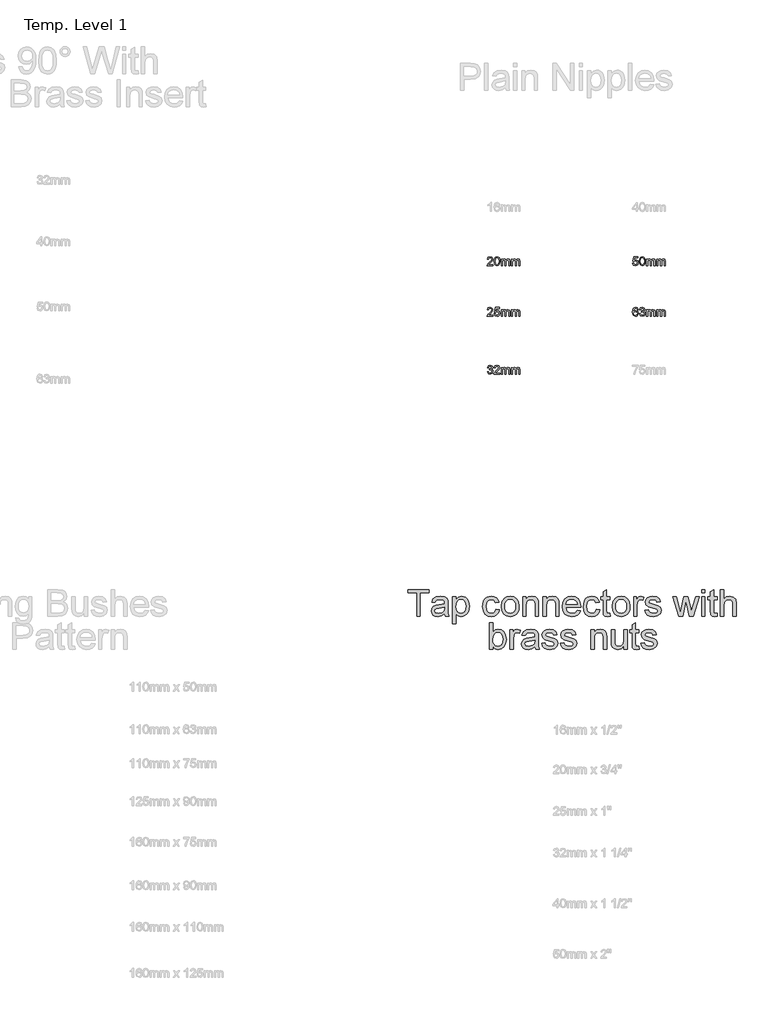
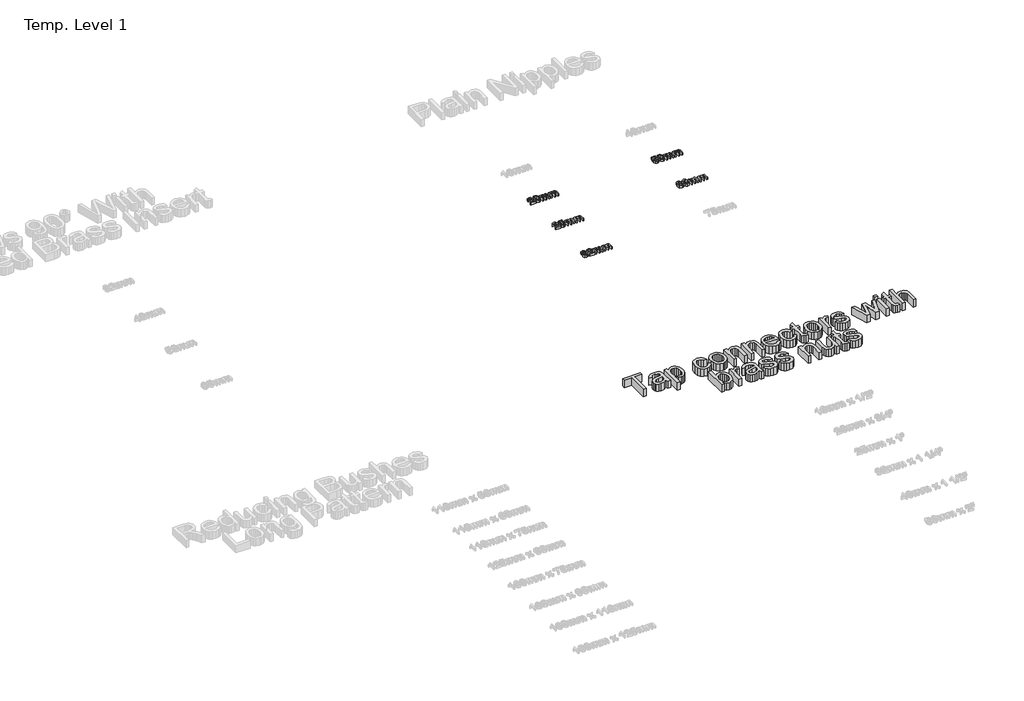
# One storey, part 51 of 62: 6 proxies.
"""IFC4 building model written with IfcOpenShell, lengths in millimetres."""

from ifc_helpers import new_model, si_unit, origin, origin_with_axes, place, context, project, spatial, polyline, outline, extrude, element, save

model = new_model("IFC4")

# Units and contexts
model_context = context("Model", 3, world=origin())
ifc_project = project(units=[si_unit("LENGTHUNIT", "METRE", prefix="MILLI")], contexts=[model_context])

# Site, building, storey
site = spatial("IfcSite", under=ifc_project)
building = spatial("IfcBuilding", under=site)
storey = spatial("IfcBuildingStorey", under=building, Name="Temp. Level 1", Elevation=0.0)

# Proxies
placement = place(None, origin())
element("IfcBuildingElementProxy", 1, Name="150mm Arial", ObjectType="150mm Arial", at=placement, inside=storey, context=model_context, shape_type="SweptSolid", body=[
    extrude(outline(polyline([(26596.1176365, -3979.0446709), (26596.1176365, -3849.8139016), (26547.6560981, -3849.8139016), (26547.6560981, -3831.3523632), (26663.0407135, -3831.3523632), (26663.0407135, -3849.8139016), (26614.579175, -3849.8139016), (26614.579175, -3979.0446709), (26596.1176365, -3979.0446709)])), origin_with_axes(), (0.0, 0.0, 1.0), 50.0),
    extrude(outline(polyline([(26750.7330212, -3965.198517), (26732.8303769, -3977.7105362), (26713.0527327, -3981.3523632), (26697.6245476, -3979.1618584), (26686.2438385, -3972.5903439), (26679.2261101, -3962.6113776), (26676.8868673, -3950.198517), (26680.4205212, -3935.5951516), (26689.7053769, -3924.9941901), (26702.6320596, -3918.9364978), (26718.6056173, -3916.1600555), (26750.6248481, -3909.8139016), (26750.7330212, -3905.7033247), (26749.4619875, -3897.464142), (26745.6488865, -3892.073517), (26737.1212423, -3888.0711132), (26725.2402327, -3886.7369786), (26706.5623481, -3890.2886612), (26697.6560981, -3902.8908247), (26679.1945596, -3900.5831324), (26687.1813385, -3882.5542862), (26703.2630692, -3871.9893824), (26727.6200404, -3868.2754401), (26749.9938385, -3871.5566901), (26762.6320596, -3879.7958728), (26768.2931173, -3892.3259209), (26769.1945596, -3908.479767), (26769.1945596, -3931.448517), (26770.1320596, -3963.5218343), (26773.8099442, -3979.0446709), (26755.3484058, -3979.0446709), (26750.7330212, -3965.198517)]), holes=[polyline([(26750.7330212, -3928.2754401), (26720.9493673, -3933.9364978), (26705.0659538, -3936.9292862), (26697.8724442, -3941.7970747), (26695.3484058, -3948.9004401), (26700.8472038, -3958.8884209), (26716.9830212, -3962.8908247), (26735.6609058, -3958.4737574), (26747.704175, -3947.7826516), (26750.6248481, -3933.5038055), (26750.7330212, -3928.2754401)])]), origin_with_axes(), (0.0, 0.0, 1.0), 50.0),
    extrude(outline(polyline([(26794.579175, -4020.5831324), (26794.579175, -3870.5831324), (26813.0407135, -3870.5831324), (26813.0407135, -3888.6840939), (26825.8051365, -3873.3776036), (26843.0407135, -3868.2754401), (26855.5256894, -3870.0602959), (26866.4421558, -3875.4148632), (26875.3303769, -3884.0146228), (26881.7306173, -3895.5350555), (26886.8868673, -3923.9845747), (26885.431038, -3939.7733367), (26881.06355, -3953.8944305), (26873.9241269, -3965.6312093), (26864.1524923, -3974.2670266), (26852.7717832, -3979.581029), (26840.8051365, -3981.3523632), (26824.7414346, -3976.6107766), (26813.0407135, -3964.6215939), (26813.0407135, -4020.5831324), (26794.579175, -4020.5831324)]), holes=[polyline([(26813.0407135, -3925.6792862), (26815.0374082, -3942.229767), (26821.0274923, -3953.8042862), (26829.8661341, -3960.6191901), (26840.4085019, -3962.8908247), (26851.1221438, -3960.5380603), (26860.1861462, -3953.479767), (26866.3655332, -3941.4815699), (26868.4253288, -3924.3090939), (26866.4151125, -3907.8487574), (26860.3844635, -3896.1119786), (26851.5593433, -3889.0807286), (26841.1657135, -3886.7369786), (26830.7315188, -3889.2294665), (26821.5683577, -3896.7069305), (26815.1726245, -3908.9349954), (26813.0407135, -3925.6792862)])]), origin_with_axes(), (0.0, 0.0, 1.0), 50.0),
    extrude(outline(polyline([(27034.579175, -3939.8139016), (27053.0407135, -3942.1215939), (27047.8934779, -3958.5413656), (27038.2210019, -3970.9497189), (27024.9337423, -3978.7517021), (27008.9421558, -3981.3523632), (26989.3042351, -3977.7240579), (26973.9481654, -3966.839142), (26964.0368072, -3949.17538), (26960.7330212, -3925.2105362), (26966.37605, -3894.5434689), (26973.4974442, -3883.0455723), (26983.5755692, -3874.8379401), (26995.6323601, -3869.9160651), (27008.6897519, -3868.2754401), (27024.2892111, -3870.5290459), (27036.7606654, -3877.2898632), (27045.7074803, -3888.1973151), (27050.7330212, -3902.8908247), (27032.2714827, -3905.198517), (27023.7077808, -3891.370392), (27008.8339827, -3886.7369786), (26996.9033938, -3889.0176276), (26987.4337423, -3895.8595747), (26981.2543553, -3907.6324112), (26979.1945596, -3924.7057286), (26981.2092832, -3942.0089137), (26987.2534538, -3953.8223151), (26996.5518313, -3960.6236973), (27008.329175, -3962.8908247), (27017.8889707, -3961.4755603), (27025.7270115, -3957.229767), (27031.4286341, -3950.0452718), (27034.579175, -3939.8139016)])), origin_with_axes(), (0.0, 0.0, 1.0), 50.0),
    extrude(outline(polyline([(27064.579175, -3924.8139016), (27068.5725644, -3898.6630603), (27080.5527327, -3880.2826516), (27095.3544154, -3871.277243), (27113.0767712, -3868.2754401), (27132.4713024, -3871.9307887), (27147.9625885, -3882.8968343), (27158.1173361, -3900.3081925), (27161.5022519, -3923.2994786), (27160.0058577, -3941.9503199), (27155.516675, -3956.1480362), (27148.165413, -3966.7805483), (27138.0827808, -3974.7357766), (27126.1071197, -3979.6982165), (27113.0767712, -3981.3523632), (27093.4478649, -3977.7105362), (27077.9746077, -3966.7850555), (27067.9280332, -3949.0086132), (27064.579175, -3924.8139016)]), holes=[polyline([(27083.0407135, -3924.7778439), (27085.1771317, -3941.4860771), (27091.5863865, -3953.3896228), (27101.2318192, -3960.5155242), (27113.0767712, -3962.8908247), (27124.8676365, -3960.5020026), (27134.4950404, -3953.3355362), (27140.9042952, -3941.2742382), (27143.0407135, -3924.2009209), (27140.8907736, -3907.9794665), (27134.4409538, -3896.2381805), (27124.8000284, -3889.112279), (27113.0767712, -3886.7369786), (27101.2318192, -3889.1032646), (27091.5863865, -3896.2021228), (27085.1771317, -3908.0786252), (27083.0407135, -3924.7778439)])]), origin_with_axes(), (0.0, 0.0, 1.0), 50.0),
    extrude(outline(polyline([(27182.2714827, -3979.0446709), (27182.2714827, -3870.5831324), (27200.7330212, -3870.5831324), (27200.7330212, -3885.7273632), (27214.8496077, -3872.6384209), (27234.1224442, -3868.2754401), (27251.5563385, -3871.7910651), (27263.4553769, -3881.0218343), (27268.9902327, -3894.5975555), (27269.9637904, -3912.4461132), (27269.9637904, -3979.0446709), (27251.5022519, -3979.0446709), (27251.5022519, -3914.9340939), (27249.3748481, -3898.5999593), (27241.8568192, -3889.964142), (27229.1825404, -3886.7369786), (27218.3697399, -3888.5488776), (27209.1524923, -3893.9845747), (27202.8378889, -3904.4863776), (27200.7330212, -3921.4965939), (27200.7330212, -3979.0446709), (27182.2714827, -3979.0446709)])), origin_with_axes(), (0.0, 0.0, 1.0), 50.0),
    extrude(outline(polyline([(27295.3484058, -3979.0446709), (27295.3484058, -3870.5831324), (27313.8099442, -3870.5831324), (27313.8099442, -3885.7273632), (27327.9265308, -3872.6384209), (27347.1993673, -3868.2754401), (27364.6332615, -3871.7910651), (27376.5323, -3881.0218343), (27382.0671558, -3894.5975555), (27383.0407135, -3912.4461132), (27383.0407135, -3979.0446709), (27364.579175, -3979.0446709), (27364.579175, -3914.9340939), (27362.4517712, -3898.5999593), (27354.9337423, -3889.964142), (27342.2594635, -3886.7369786), (27331.446663, -3888.5488776), (27322.2294154, -3893.9845747), (27315.914812, -3904.4863776), (27313.8099442, -3921.4965939), (27313.8099442, -3979.0446709), (27295.3484058, -3979.0446709)])), origin_with_axes(), (0.0, 0.0, 1.0), 50.0),
    extrude(outline(polyline([(27484.3628288, -3946.7369786), (27502.4637904, -3949.0446709), (27495.9418553, -3962.683493), (27485.5347038, -3972.8788055), (27471.4767111, -3979.2339737), (27454.0022519, -3981.3523632), (27432.3405933, -3977.6970146), (27415.672925, -3966.7309689), (27405.0449202, -3949.1663656), (27401.5022519, -3925.7153439), (27405.0809779, -3901.4755603), (27415.8171558, -3883.3475555), (27432.2594635, -3872.0434689), (27452.9565788, -3868.2754401), (27473.009163, -3872.0344545), (27489.0323, -3883.3114978), (27499.5386101, -3901.4034449), (27503.0407135, -3925.6071709), (27502.9325404, -3930.5831324), (27419.9637904, -3930.5831324), (27423.1594034, -3944.402243), (27430.5827808, -3954.5614978), (27441.2964226, -3960.808493), (27454.3628288, -3962.8908247), (27472.4637904, -3959.0326516), (27484.3628288, -3946.7369786)]), holes=[polyline([(27419.9637904, -3912.1215939), (27484.579175, -3912.1215939), (27482.0821798, -3902.3679882), (27477.1873481, -3895.3908247), (27466.4241269, -3888.9004401), (27452.8844635, -3886.7369786), (27440.4400524, -3888.4632406), (27430.1500885, -3893.6420266), (27422.9971438, -3901.7144425), (27419.9637904, -3912.1215939)])]), origin_with_axes(), (0.0, 0.0, 1.0), 50.0),
    extrude(outline(polyline([(27590.7330212, -3939.8139016), (27609.1945596, -3942.1215939), (27604.047324, -3958.5413656), (27594.3748481, -3970.9497189), (27581.0875885, -3978.7517021), (27565.0960019, -3981.3523632), (27545.4580813, -3977.7240579), (27530.1020115, -3966.839142), (27520.1906534, -3949.17538), (27516.8868673, -3925.2105362), (27522.5298962, -3894.5434689), (27529.6512904, -3883.0455723), (27539.7294154, -3874.8379401), (27551.7862063, -3869.9160651), (27564.8435981, -3868.2754401), (27580.4430572, -3870.5290459), (27592.9145115, -3877.2898632), (27601.8613264, -3888.1973151), (27606.8868673, -3902.8908247), (27588.4253288, -3905.198517), (27579.8616269, -3891.370392), (27564.9878288, -3886.7369786), (27553.0572399, -3889.0176276), (27543.5875885, -3895.8595747), (27537.4082014, -3907.6324112), (27535.3484058, -3924.7057286), (27537.3631293, -3942.0089137), (27543.4073, -3953.8223151), (27552.7056774, -3960.6236973), (27564.4830212, -3962.8908247), (27574.0428168, -3961.4755603), (27581.8808577, -3957.229767), (27587.5824803, -3950.0452718), (27590.7330212, -3939.8139016)])), origin_with_axes(), (0.0, 0.0, 1.0), 50.0),
    extrude(outline(polyline([(27664.579175, -3963.6480362), (27666.8868673, -3979.5855362), (27653.0767712, -3981.3523632), (27637.6080212, -3978.2874593), (27629.891675, -3970.2465939), (27627.6560981, -3949.2970747), (27627.6560981, -3889.0446709), (27613.8099442, -3889.0446709), (27613.8099442, -3870.5831324), (27627.6560981, -3870.5831324), (27627.6560981, -3844.2249593), (27646.1176365, -3833.3715939), (27646.1176365, -3870.5831324), (27664.579175, -3870.5831324), (27664.579175, -3889.0446709), (27646.1176365, -3889.0446709), (27646.1176365, -3948.7562093), (27647.0911942, -3958.2754401), (27650.2462423, -3961.6468343), (27656.5383096, -3962.8908247), (27664.579175, -3963.6480362)])), origin_with_axes(), (0.0, 0.0, 1.0), 50.0),
    extrude(outline(polyline([(27678.4253288, -3924.8139016), (27682.4187183, -3898.6630603), (27694.3988865, -3880.2826516), (27709.2005692, -3871.277243), (27726.922925, -3868.2754401), (27746.3174563, -3871.9307887), (27761.8087423, -3882.8968343), (27771.9634899, -3900.3081925), (27775.3484058, -3923.2994786), (27773.8520115, -3941.9503199), (27769.3628288, -3956.1480362), (27762.0115668, -3966.7805483), (27751.9289346, -3974.7357766), (27739.9532736, -3979.6982165), (27726.922925, -3981.3523632), (27707.2940188, -3977.7105362), (27691.8207615, -3966.7850555), (27681.774187, -3949.0086132), (27678.4253288, -3924.8139016)]), holes=[polyline([(27696.8868673, -3924.7778439), (27699.0232856, -3941.4860771), (27705.4325404, -3953.3896228), (27715.0779731, -3960.5155242), (27726.922925, -3962.8908247), (27738.7137904, -3960.5020026), (27748.3411942, -3953.3355362), (27754.750449, -3941.2742382), (27756.8868673, -3924.2009209), (27754.7369274, -3907.9794665), (27748.2871077, -3896.2381805), (27738.6461822, -3889.112279), (27726.922925, -3886.7369786), (27715.0779731, -3889.1032646), (27705.4325404, -3896.2021228), (27699.0232856, -3908.0786252), (27696.8868673, -3924.7778439)])]), origin_with_axes(), (0.0, 0.0, 1.0), 50.0),
    extrude(outline(polyline([(27796.1176365, -3979.0446709), (27796.1176365, -3870.5831324), (27812.2714827, -3870.5831324), (27812.2714827, -3886.6288055), (27823.7378288, -3871.8451516), (27835.2762904, -3868.2754401), (27853.8099442, -3873.9725555), (27847.6440788, -3890.5230362), (27834.6633096, -3886.7369786), (27824.2246077, -3890.3788055), (27817.5719635, -3900.4749593), (27814.579175, -3922.0374593), (27814.579175, -3979.0446709), (27796.1176365, -3979.0446709)])), origin_with_axes(), (0.0, 0.0, 1.0), 50.0),
    extrude(outline(polyline([(27858.4253288, -3946.7369786), (27876.8868673, -3944.4292862), (27879.798526, -3952.3259209), (27885.4325404, -3958.1312093), (27905.0118673, -3962.8908247), (27923.8339827, -3958.5278439), (27929.9637904, -3948.2874593), (27923.797925, -3939.9941901), (27904.7955212, -3934.729767), (27876.9950404, -3925.6973151), (27864.8616269, -3915.1504401), (27860.7330212, -3900.2586132), (27864.0503288, -3886.5026036), (27873.1008096, -3875.9917862), (27884.8375885, -3870.5290459), (27900.7210019, -3868.2754401), (27923.1849442, -3871.8992382), (27937.4637904, -3881.7069305), (27943.8099442, -3898.2754401), (27925.3484058, -3900.5831324), (27918.4073, -3890.3968343), (27902.1633096, -3886.7369786), (27884.4950404, -3890.2345747), (27879.1945596, -3898.3836132), (27881.3940788, -3903.7562093), (27888.2810981, -3907.8307286), (27904.1825404, -3911.761017), (27931.2798962, -3920.4509209), (27943.8640308, -3930.2946709), (27948.4253288, -3946.3403439), (27943.0707615, -3964.0086132), (27927.6200404, -3976.8271228), (27904.7594635, -3981.3523632), (27886.1446798, -3979.1708728), (27872.5599442, -3972.6264016), (27863.4914346, -3961.7910651), (27858.4253288, -3946.7369786)])), origin_with_axes(), (0.0, 0.0, 1.0), 50.0),
    extrude(outline(polyline([(28044.8796558, -3979.0446709), (28011.8868673, -3870.5831324), (28031.0695596, -3870.5831324), (28049.7835019, -3933.8643824), (28055.3724442, -3956.4725555), (28059.9517712, -3934.6937093), (28074.8435981, -3870.5831324), (28096.8387904, -3870.5831324), (28111.6585019, -3934.5134209), (28115.7330212, -3954.2369786), (28121.5743673, -3933.4316901), (28140.3243673, -3870.5831324), (28159.579175, -3870.5831324), (28126.3339827, -3979.0446709), (28104.0142712, -3979.0446709), (28089.8435981, -3915.4389016), (28085.7330212, -3895.6071709), (28067.4517712, -3979.0446709), (28044.8796558, -3979.0446709)])), origin_with_axes(), (0.0, 0.0, 1.0), 50.0),
    extrude(outline(polyline([(28172.2714827, -3979.0446709), (28172.2714827, -3870.5831324), (28190.7330212, -3870.5831324), (28190.7330212, -3979.0446709), (28172.2714827, -3979.0446709)])), origin_with_axes(), (0.0, 0.0, 1.0), 50.0),
    extrude(outline(polyline([(28172.2714827, -3849.8139016), (28172.2714827, -3831.3523632), (28190.7330212, -3831.3523632), (28190.7330212, -3849.8139016), (28172.2714827, -3849.8139016)])), origin_with_axes(), (0.0, 0.0, 1.0), 50.0),
    extrude(outline(polyline([(28257.6560981, -3963.6480362), (28259.9637904, -3979.5855362), (28246.1536942, -3981.3523632), (28230.6849442, -3978.2874593), (28222.9685981, -3970.2465939), (28220.7330212, -3949.2970747), (28220.7330212, -3889.0446709), (28206.8868673, -3889.0446709), (28206.8868673, -3870.5831324), (28220.7330212, -3870.5831324), (28220.7330212, -3844.2249593), (28239.1945596, -3833.3715939), (28239.1945596, -3870.5831324), (28257.6560981, -3870.5831324), (28257.6560981, -3889.0446709), (28239.1945596, -3889.0446709), (28239.1945596, -3948.7562093), (28240.1681173, -3958.2754401), (28243.3231654, -3961.6468343), (28249.6152327, -3962.8908247), (28257.6560981, -3963.6480362)])), origin_with_axes(), (0.0, 0.0, 1.0), 50.0),
    extrude(outline(polyline([(28276.1176365, -3979.0446709), (28276.1176365, -3831.3523632), (28294.579175, -3831.3523632), (28294.579175, -3885.6552478), (28308.9752087, -3872.620392), (28326.7065788, -3868.2754401), (28347.4397519, -3873.0170266), (28360.0238865, -3886.1239978), (28363.8099442, -3910.3908247), (28363.8099442, -3979.0446709), (28345.3484058, -3979.0446709), (28345.3484058, -3912.3018824), (28343.8790548, -3900.745392), (28339.4710019, -3892.8307286), (28332.3676365, -3888.2604161), (28322.8123481, -3886.7369786), (28307.6861462, -3890.8475555), (28297.5899923, -3901.9893824), (28294.579175, -3921.4244786), (28294.579175, -3979.0446709), (28276.1176365, -3979.0446709)])), origin_with_axes(), (0.0, 0.0, 1.0), 50.0),
    extrude(outline(polyline([(27017.2714827, -4161.3523632), (26998.8099442, -4161.3523632), (26998.8099442, -4013.6600555), (27017.2714827, -4013.6600555), (27017.2714827, -4068.4316901), (27030.1981654, -4055.0452718), (27046.2618673, -4050.5831324), (27064.7594635, -4054.6035651), (27079.110425, -4065.9076516), (27087.9265308, -4083.4857766), (27091.1176365, -4105.4989978), (27087.8138505, -4130.1444305), (27077.9024923, -4148.479767), (27063.3577207, -4159.8649834), (27046.1536942, -4163.6600555), (27029.7384298, -4158.7652237), (27017.2714827, -4144.0807286), (27017.2714827, -4161.3523632)]), holes=[polyline([(27017.2714827, -4106.3643824), (27018.5335019, -4121.761017), (27022.3195596, -4132.1816901), (27031.9920356, -4141.9443103), (27044.5671558, -4145.198517), (27055.2222038, -4142.8006805), (27064.3267712, -4135.6071709), (27070.5737663, -4123.6630603), (27072.6560981, -4107.0134209), (27070.6594034, -4090.120392), (27064.6693192, -4078.3114978), (27055.8487063, -4071.3613776), (27045.360425, -4069.0446709), (27034.7053769, -4071.4425074), (27025.6008096, -4078.636017), (27019.3538144, -4090.3637814), (27017.2714827, -4106.3643824)])]), origin_with_axes(), (0.0, 0.0, 1.0), 50.0),
    extrude(outline(polyline([(27111.8868673, -4161.3523632), (27111.8868673, -4052.8908247), (27128.0407135, -4052.8908247), (27128.0407135, -4068.9364978), (27139.5070596, -4054.1528439), (27151.0455212, -4050.5831324), (27169.579175, -4056.2802478), (27163.4133096, -4072.8307286), (27150.4325404, -4069.0446709), (27139.9938385, -4072.6864978), (27133.3411942, -4082.7826516), (27130.3484058, -4104.3451516), (27130.3484058, -4161.3523632), (27111.8868673, -4161.3523632)])), origin_with_axes(), (0.0, 0.0, 1.0), 50.0),
    extrude(outline(polyline([(27250.3484058, -4147.5062093), (27232.4457615, -4160.0182286), (27212.6681173, -4163.6600555), (27197.2399322, -4161.4695507), (27185.8592231, -4154.8980362), (27178.8414947, -4144.9190699), (27176.5022519, -4132.5062093), (27180.0359058, -4117.9028439), (27189.3207615, -4107.3018824), (27202.2474442, -4101.2441901), (27218.2210019, -4098.4677478), (27250.2402327, -4092.1215939), (27250.3484058, -4088.011017), (27249.0773721, -4079.7718343), (27245.2642712, -4074.3812093), (27236.7366269, -4070.3788055), (27224.8556173, -4069.0446709), (27206.1777327, -4072.5963536), (27197.2714827, -4085.198517), (27178.8099442, -4082.8908247), (27186.7967231, -4064.8619786), (27202.8784538, -4054.2970747), (27227.235425, -4050.5831324), (27249.6092231, -4053.8643824), (27262.2474442, -4062.1035651), (27267.9085019, -4074.6336132), (27268.8099442, -4090.7874593), (27268.8099442, -4113.7562093), (27269.7474442, -4145.8295266), (27273.4253288, -4161.3523632), (27254.9637904, -4161.3523632), (27250.3484058, -4147.5062093)]), holes=[polyline([(27250.3484058, -4110.5831324), (27220.5647519, -4116.2441901), (27204.6813385, -4119.2369786), (27197.4878288, -4124.104767), (27194.9637904, -4131.2081324), (27200.4625885, -4141.1961132), (27216.5984058, -4145.198517), (27235.2762904, -4140.7814497), (27247.3195596, -4130.0903439), (27250.2402327, -4115.8114978), (27250.3484058, -4110.5831324)])]), origin_with_axes(), (0.0, 0.0, 1.0), 50.0),
    extrude(outline(polyline([(27287.2714827, -4129.0446709), (27305.7330212, -4126.7369786), (27308.6446798, -4134.6336132), (27314.2786942, -4140.4389016), (27333.8580212, -4145.198517), (27352.6801365, -4140.8355362), (27358.8099442, -4130.5951516), (27352.6440788, -4122.3018824), (27333.641675, -4117.0374593), (27305.8411942, -4108.0050074), (27293.7077808, -4097.4581324), (27289.579175, -4082.5663055), (27292.8964827, -4068.8102959), (27301.9469635, -4058.2994786), (27313.6837423, -4052.8367382), (27329.5671558, -4050.5831324), (27352.0310981, -4054.2069305), (27366.3099442, -4064.0146228), (27372.6560981, -4080.5831324), (27354.1945596, -4082.8908247), (27347.2534538, -4072.7045266), (27331.0094635, -4069.0446709), (27313.3411942, -4072.542267), (27308.0407135, -4080.6913055), (27310.2402327, -4086.0639016), (27317.1272519, -4090.1384209), (27333.0286942, -4094.0687093), (27360.12605, -4102.7586132), (27372.7101846, -4112.6023632), (27377.2714827, -4128.6480362), (27371.9169154, -4146.3163055), (27356.4661942, -4159.1348151), (27333.6056173, -4163.6600555), (27314.9908337, -4161.4785651), (27301.4060981, -4154.9340939), (27292.3375885, -4144.0987574), (27287.2714827, -4129.0446709)])), origin_with_axes(), (0.0, 0.0, 1.0), 50.0),
    extrude(outline(polyline([(27391.1176365, -4129.0446709), (27409.579175, -4126.7369786), (27412.4908337, -4134.6336132), (27418.1248481, -4140.4389016), (27437.704175, -4145.198517), (27456.5262904, -4140.8355362), (27462.6560981, -4130.5951516), (27456.4902327, -4122.3018824), (27437.4878288, -4117.0374593), (27409.6873481, -4108.0050074), (27397.5539346, -4097.4581324), (27393.4253288, -4082.5663055), (27396.7426365, -4068.8102959), (27405.7931173, -4058.2994786), (27417.5298962, -4052.8367382), (27433.4133096, -4050.5831324), (27455.8772519, -4054.2069305), (27470.1560981, -4064.0146228), (27476.5022519, -4080.5831324), (27458.0407135, -4082.8908247), (27451.0996077, -4072.7045266), (27434.8556173, -4069.0446709), (27417.1873481, -4072.542267), (27411.8868673, -4080.6913055), (27414.0863865, -4086.0639016), (27420.9734058, -4090.1384209), (27436.8748481, -4094.0687093), (27463.9722038, -4102.7586132), (27476.5563385, -4112.6023632), (27481.1176365, -4128.6480362), (27475.7630692, -4146.3163055), (27460.3123481, -4159.1348151), (27437.4517712, -4163.6600555), (27418.8369875, -4161.4785651), (27405.2522519, -4154.9340939), (27396.1837423, -4144.0987574), (27391.1176365, -4129.0446709)])), origin_with_axes(), (0.0, 0.0, 1.0), 50.0),
    extrude(outline(polyline([(27559.579175, -4161.3523632), (27559.579175, -4052.8908247), (27578.0407135, -4052.8908247), (27578.0407135, -4068.0350555), (27592.1573, -4054.9461132), (27611.4301365, -4050.5831324), (27628.8640308, -4054.0987574), (27640.7630692, -4063.3295266), (27646.297925, -4076.9052478), (27647.2714827, -4094.7538055), (27647.2714827, -4161.3523632), (27628.8099442, -4161.3523632), (27628.8099442, -4097.2417862), (27626.6825404, -4080.9076516), (27619.1645115, -4072.2718343), (27606.4902327, -4069.0446709), (27595.6774322, -4070.8565699), (27586.4601846, -4076.292267), (27580.1455813, -4086.7940699), (27578.0407135, -4103.8042862), (27578.0407135, -4161.3523632), (27559.579175, -4161.3523632)])), origin_with_axes(), (0.0, 0.0, 1.0), 50.0),
    extrude(outline(polyline([(27741.8868673, -4161.3523632), (27741.8868673, -4142.7105362), (27727.4277327, -4158.4226757), (27708.5695596, -4163.6600555), (27691.2077808, -4159.9821709), (27679.2366269, -4150.7514016), (27673.7378288, -4137.1576516), (27672.6560981, -4119.9941901), (27672.6560981, -4052.8908247), (27691.1176365, -4052.8908247), (27691.1176365, -4111.3042862), (27692.235425, -4130.1264016), (27699.5371077, -4141.1780843), (27713.2931173, -4145.198517), (27728.7077808, -4141.0879401), (27738.8940788, -4129.8920266), (27741.8868673, -4109.3211132), (27741.8868673, -4052.8908247), (27760.3484058, -4052.8908247), (27760.3484058, -4161.3523632), (27741.8868673, -4161.3523632)])), origin_with_axes(), (0.0, 0.0, 1.0), 50.0),
    extrude(outline(polyline([(27824.9637904, -4145.9557286), (27827.2714827, -4161.8932286), (27813.4613865, -4163.6600555), (27797.9926365, -4160.5951516), (27790.2762904, -4152.5542862), (27788.0407135, -4131.604767), (27788.0407135, -4071.3523632), (27774.1945596, -4071.3523632), (27774.1945596, -4052.8908247), (27788.0407135, -4052.8908247), (27788.0407135, -4026.5326516), (27806.5022519, -4015.6792862), (27806.5022519, -4052.8908247), (27824.9637904, -4052.8908247), (27824.9637904, -4071.3523632), (27806.5022519, -4071.3523632), (27806.5022519, -4131.0639016), (27807.4758096, -4140.5831324), (27810.6308577, -4143.9545266), (27816.922925, -4145.198517), (27824.9637904, -4145.9557286)])), origin_with_axes(), (0.0, 0.0, 1.0), 50.0),
    extrude(outline(polyline([(27836.5022519, -4129.0446709), (27854.9637904, -4126.7369786), (27857.875449, -4134.6336132), (27863.5094635, -4140.4389016), (27883.0887904, -4145.198517), (27901.9109058, -4140.8355362), (27908.0407135, -4130.5951516), (27901.8748481, -4122.3018824), (27882.8724442, -4117.0374593), (27855.0719635, -4108.0050074), (27842.93855, -4097.4581324), (27838.8099442, -4082.5663055), (27842.1272519, -4068.8102959), (27851.1777327, -4058.2994786), (27862.9145115, -4052.8367382), (27878.797925, -4050.5831324), (27901.2618673, -4054.2069305), (27915.5407135, -4064.0146228), (27921.8868673, -4080.5831324), (27903.4253288, -4082.8908247), (27896.4842231, -4072.7045266), (27880.2402327, -4069.0446709), (27862.5719635, -4072.542267), (27857.2714827, -4080.6913055), (27859.4710019, -4086.0639016), (27866.3580212, -4090.1384209), (27882.2594635, -4094.0687093), (27909.3568192, -4102.7586132), (27921.9409538, -4112.6023632), (27926.5022519, -4128.6480362), (27921.1476846, -4146.3163055), (27905.6969635, -4159.1348151), (27882.8363865, -4163.6600555), (27864.2216029, -4161.4785651), (27850.6368673, -4154.9340939), (27841.5683577, -4144.0987574), (27836.5022519, -4129.0446709)])), origin_with_axes(), (0.0, 0.0, 1.0), 50.0),
])
element("IfcBuildingElementProxy", 2, Name="50mm Arial", ObjectType="50mm Arial", at=placement, inside=storey, context=model_context, shape_type="SweptSolid", body=[
    extrude(outline(polyline([(27018.0387988, -2034.1983605), (27018.0387988, -2040.3522066), (26985.7311065, -2040.3522066), (26986.3921642, -2036.1094182), (26990.1301449, -2029.5769662), (26997.8344719, -2022.4435528), (27008.4594719, -2012.1911489), (27011.1157219, -2005.2199951), (27008.6097122, -1999.5769662), (27002.0652411, -1997.2752835), (26995.2443276, -1999.5228797), (26992.6541834, -2005.736822), (26986.5003372, -2004.9675912), (26991.2178853, -1994.6671105), (27002.1974526, -1991.1214374), (27013.2130776, -1995.0637451), (27017.269568, -2004.8473989), (27016.175818, -2010.6827355), (27012.5400007, -2016.7163893), (27003.7238949, -2025.1478797), (26996.644568, -2031.0673509), (26993.8681257, -2034.1983605), (27018.0387988, -2034.1983605)])), origin_with_axes(), (0.0, 0.0, 1.0), 15.0),
    extrude(outline(polyline([(27024.1926449, -2016.1334566), (27026.0015392, -2001.9687932), (27031.3741353, -1993.8017259), (27040.3464911, -1991.1214374), (27047.5339911, -1992.7079759), (27052.4979334, -1997.2812932), (27055.3825488, -2004.564947), (27056.5003372, -2016.1334566), (27054.7094719, -2030.2380239), (27049.3549046, -2038.4231201), (27040.3464911, -2041.1214374), (27029.0964911, -2036.4339374), (27025.4186065, -2028.1076153), (27024.1926449, -2016.1334566)]), holes=[polyline([(27030.3464911, -2016.1214374), (27033.2311065, -2031.4038893), (27040.3464911, -2034.9675912), (27047.4618757, -2031.3918701), (27050.3464911, -2016.1214374), (27047.5580296, -2001.0132643), (27040.2743757, -1997.2752835), (27033.3272603, -2000.5685528), (27030.3464911, -2016.1214374)])]), origin_with_axes(), (0.0, 0.0, 1.0), 15.0),
    extrude(outline(polyline([(27063.4234142, -2040.3522066), (27063.4234142, -2004.1983605), (27069.5772603, -2004.1983605), (27069.5772603, -2010.1478797), (27073.8080296, -2005.2740816), (27079.8296642, -2003.4291297), (27085.9955296, -2005.3101393), (27089.3849526, -2010.580572), (27094.1866353, -2005.2169903), (27100.2503372, -2003.4291297), (27108.2972122, -2006.4038893), (27111.1157219, -2015.5685528), (27111.1157219, -2040.3522066), (27104.9618757, -2040.3522066), (27104.9618757, -2018.2127835), (27104.3909622, -2013.0745624), (27102.3236546, -2010.5445143), (27098.8080296, -2009.5829759), (27092.7563469, -2012.0469182), (27090.3464911, -2019.9435528), (27090.3464911, -2040.3522066), (27084.1926449, -2040.3522066), (27084.1926449, -2017.5276874), (27082.7683661, -2011.5661489), (27078.0988949, -2009.5829759), (27073.5436065, -2010.9050912), (27070.5147603, -2014.7752835), (27069.5772603, -2022.1190335), (27069.5772603, -2040.3522066), (27063.4234142, -2040.3522066)])), origin_with_axes(), (0.0, 0.0, 1.0), 15.0),
    extrude(outline(polyline([(27120.3464911, -2040.3522066), (27120.3464911, -2004.1983605), (27126.5003372, -2004.1983605), (27126.5003372, -2010.1478797), (27130.7311065, -2005.2740816), (27136.7527411, -2003.4291297), (27142.9186065, -2005.3101393), (27146.3080296, -2010.580572), (27151.1097122, -2005.2169903), (27157.1734142, -2003.4291297), (27165.2202892, -2006.4038893), (27168.0387988, -2015.5685528), (27168.0387988, -2040.3522066), (27161.8849526, -2040.3522066), (27161.8849526, -2018.2127835), (27161.3140392, -2013.0745624), (27159.2467315, -2010.5445143), (27155.7311065, -2009.5829759), (27149.6794238, -2012.0469182), (27147.269568, -2019.9435528), (27147.269568, -2040.3522066), (27141.1157219, -2040.3522066), (27141.1157219, -2017.5276874), (27139.691443, -2011.5661489), (27135.0219719, -2009.5829759), (27130.4666834, -2010.9050912), (27127.4378372, -2014.7752835), (27126.5003372, -2022.1190335), (27126.5003372, -2040.3522066), (27120.3464911, -2040.3522066)])), origin_with_axes(), (0.0, 0.0, 1.0), 15.0),
])
element("IfcBuildingElementProxy", 3, Name="50mm Arial", ObjectType="50mm Arial", at=placement, inside=storey, context=model_context, shape_type="SweptSolid", body=[
    extrude(outline(polyline([(27018.0387988, -2314.1983605), (27018.0387988, -2320.3522066), (26985.7311065, -2320.3522066), (26986.3921642, -2316.1094182), (26990.1301449, -2309.5769662), (26997.8344719, -2302.4435528), (27008.4594719, -2292.1911489), (27011.1157219, -2285.2199951), (27008.6097122, -2279.5769662), (27002.0652411, -2277.2752835), (26995.2443276, -2279.5228797), (26992.6541834, -2285.736822), (26986.5003372, -2284.9675912), (26991.2178853, -2274.6671105), (27002.1974526, -2271.1214374), (27013.2130776, -2275.0637451), (27017.269568, -2284.8473989), (27016.175818, -2290.6827355), (27012.5400007, -2296.7163893), (27003.7238949, -2305.1478797), (26996.644568, -2311.0673509), (26993.8681257, -2314.1983605), (27018.0387988, -2314.1983605)])), origin_with_axes(), (0.0, 0.0, 1.0), 15.0),
    extrude(outline(polyline([(27024.1926449, -2307.2752835), (27030.3464911, -2306.5060528), (27033.4474526, -2312.846197), (27039.8777411, -2314.9675912), (27047.5940872, -2312.0168701), (27050.3464911, -2304.1863412), (27047.7683661, -2296.8786489), (27039.9738949, -2294.1983605), (27034.5712507, -2295.268072), (27031.1157219, -2298.0445143), (27024.9618757, -2297.2752835), (27030.3464911, -2271.8906682), (27054.1926449, -2271.8906682), (27054.1926449, -2278.0445143), (27035.3224526, -2278.0445143), (27032.6902411, -2291.6022066), (27041.6926449, -2288.0445143), (27052.2154815, -2292.455572), (27056.5003372, -2303.8017259), (27052.6421642, -2315.2199951), (27047.1012988, -2319.6460768), (27039.8537026, -2321.1214374), (27028.9943276, -2317.3293701), (27024.1926449, -2307.2752835)])), origin_with_axes(), (0.0, 0.0, 1.0), 15.0),
    extrude(outline(polyline([(27063.4234142, -2320.3522066), (27063.4234142, -2284.1983605), (27069.5772603, -2284.1983605), (27069.5772603, -2290.1478797), (27073.8080296, -2285.2740816), (27079.8296642, -2283.4291297), (27085.9955296, -2285.3101393), (27089.3849526, -2290.580572), (27094.1866353, -2285.2169903), (27100.2503372, -2283.4291297), (27108.2972122, -2286.4038893), (27111.1157219, -2295.5685528), (27111.1157219, -2320.3522066), (27104.9618757, -2320.3522066), (27104.9618757, -2298.2127835), (27104.3909622, -2293.0745624), (27102.3236546, -2290.5445143), (27098.8080296, -2289.5829759), (27092.7563469, -2292.0469182), (27090.3464911, -2299.9435528), (27090.3464911, -2320.3522066), (27084.1926449, -2320.3522066), (27084.1926449, -2297.5276874), (27082.7683661, -2291.5661489), (27078.0988949, -2289.5829759), (27073.5436065, -2290.9050912), (27070.5147603, -2294.7752835), (27069.5772603, -2302.1190335), (27069.5772603, -2320.3522066), (27063.4234142, -2320.3522066)])), origin_with_axes(), (0.0, 0.0, 1.0), 15.0),
    extrude(outline(polyline([(27120.3464911, -2320.3522066), (27120.3464911, -2284.1983605), (27126.5003372, -2284.1983605), (27126.5003372, -2290.1478797), (27130.7311065, -2285.2740816), (27136.7527411, -2283.4291297), (27142.9186065, -2285.3101393), (27146.3080296, -2290.580572), (27151.1097122, -2285.2169903), (27157.1734142, -2283.4291297), (27165.2202892, -2286.4038893), (27168.0387988, -2295.5685528), (27168.0387988, -2320.3522066), (27161.8849526, -2320.3522066), (27161.8849526, -2298.2127835), (27161.3140392, -2293.0745624), (27159.2467315, -2290.5445143), (27155.7311065, -2289.5829759), (27149.6794238, -2292.0469182), (27147.269568, -2299.9435528), (27147.269568, -2320.3522066), (27141.1157219, -2320.3522066), (27141.1157219, -2297.5276874), (27139.691443, -2291.5661489), (27135.0219719, -2289.5829759), (27130.4666834, -2290.9050912), (27127.4378372, -2294.7752835), (27126.5003372, -2302.1190335), (27126.5003372, -2320.3522066), (27120.3464911, -2320.3522066)])), origin_with_axes(), (0.0, 0.0, 1.0), 15.0),
])
element("IfcBuildingElementProxy", 4, Name="50mm Arial", ObjectType="50mm Arial", at=placement, inside=storey, context=model_context, shape_type="SweptSolid", body=[
    extrude(outline(polyline([(26986.5003372, -2627.2752835), (26992.6541834, -2626.5060528), (26996.0496161, -2632.9844182), (27002.4017796, -2634.9675912), (27009.8777411, -2632.2392259), (27012.6541834, -2625.4844182), (27009.9017796, -2619.1202355), (27002.9065872, -2616.6022066), (26998.5916834, -2617.2752835), (26999.2767796, -2611.1214374), (27007.2455296, -2609.4267259), (27010.3464911, -2603.9940335), (27008.0988949, -2599.1803316), (27002.3056257, -2597.2752835), (26996.4402411, -2599.1983605), (26993.4234142, -2604.9675912), (26987.269568, -2604.1983605), (26992.3056257, -2594.5469182), (27002.0892796, -2591.1214374), (27009.5111546, -2592.8101393), (27014.7034622, -2597.4255239), (27016.5003372, -2603.6334566), (27014.7936065, -2609.3065335), (27009.7455296, -2613.3810528), (27016.4522603, -2617.5877835), (27018.8080296, -2625.5925912), (27014.0964911, -2636.6022066), (27002.1854334, -2641.1214374), (26991.3921642, -2637.2632643), (26986.5003372, -2627.2752835)])), origin_with_axes(), (0.0, 0.0, 1.0), 15.0),
    extrude(outline(polyline([(27055.7311065, -2634.1983605), (27055.7311065, -2640.3522066), (27023.4234142, -2640.3522066), (27024.0844719, -2636.1094182), (27027.8224526, -2629.5769662), (27035.5267796, -2622.4435528), (27046.1517796, -2612.1911489), (27048.8080296, -2605.2199951), (27046.3020199, -2599.5769662), (27039.7575488, -2597.2752835), (27032.9366353, -2599.5228797), (27030.3464911, -2605.736822), (27024.1926449, -2604.9675912), (27028.910193, -2594.6671105), (27039.8897603, -2591.1214374), (27050.9053853, -2595.0637451), (27054.9618757, -2604.8473989), (27053.8681257, -2610.6827355), (27050.2323084, -2616.7163893), (27041.4162026, -2625.1478797), (27034.3368757, -2631.0673509), (27031.5604334, -2634.1983605), (27055.7311065, -2634.1983605)])), origin_with_axes(), (0.0, 0.0, 1.0), 15.0),
    extrude(outline(polyline([(27063.4234142, -2640.3522066), (27063.4234142, -2604.1983605), (27069.5772603, -2604.1983605), (27069.5772603, -2610.1478797), (27073.8080296, -2605.2740816), (27079.8296642, -2603.4291297), (27085.9955296, -2605.3101393), (27089.3849526, -2610.580572), (27094.1866353, -2605.2169903), (27100.2503372, -2603.4291297), (27108.2972122, -2606.4038893), (27111.1157219, -2615.5685528), (27111.1157219, -2640.3522066), (27104.9618757, -2640.3522066), (27104.9618757, -2618.2127835), (27104.3909622, -2613.0745624), (27102.3236546, -2610.5445143), (27098.8080296, -2609.5829759), (27092.7563469, -2612.0469182), (27090.3464911, -2619.9435528), (27090.3464911, -2640.3522066), (27084.1926449, -2640.3522066), (27084.1926449, -2617.5276874), (27082.7683661, -2611.5661489), (27078.0988949, -2609.5829759), (27073.5436065, -2610.9050912), (27070.5147603, -2614.7752835), (27069.5772603, -2622.1190335), (27069.5772603, -2640.3522066), (27063.4234142, -2640.3522066)])), origin_with_axes(), (0.0, 0.0, 1.0), 15.0),
    extrude(outline(polyline([(27120.3464911, -2640.3522066), (27120.3464911, -2604.1983605), (27126.5003372, -2604.1983605), (27126.5003372, -2610.1478797), (27130.7311065, -2605.2740816), (27136.7527411, -2603.4291297), (27142.9186065, -2605.3101393), (27146.3080296, -2610.580572), (27151.1097122, -2605.2169903), (27157.1734142, -2603.4291297), (27165.2202892, -2606.4038893), (27168.0387988, -2615.5685528), (27168.0387988, -2640.3522066), (27161.8849526, -2640.3522066), (27161.8849526, -2618.2127835), (27161.3140392, -2613.0745624), (27159.2467315, -2610.5445143), (27155.7311065, -2609.5829759), (27149.6794238, -2612.0469182), (27147.269568, -2619.9435528), (27147.269568, -2640.3522066), (27141.1157219, -2640.3522066), (27141.1157219, -2617.5276874), (27139.691443, -2611.5661489), (27135.0219719, -2609.5829759), (27130.4666834, -2610.9050912), (27127.4378372, -2614.7752835), (27126.5003372, -2622.1190335), (27126.5003372, -2640.3522066), (27120.3464911, -2640.3522066)])), origin_with_axes(), (0.0, 0.0, 1.0), 15.0),
])
element("IfcBuildingElementProxy", 5, Name="50mm Arial", ObjectType="50mm Arial", at=placement, inside=storey, context=model_context, shape_type="SweptSolid", body=[
    extrude(outline(polyline([(27790.226047, -2027.2752835), (27796.3798931, -2026.5060528), (27799.4808547, -2032.846197), (27805.9111431, -2034.9675912), (27813.6274893, -2032.0168701), (27816.3798931, -2024.1863412), (27813.8017681, -2016.8786489), (27806.007297, -2014.1983605), (27800.6046527, -2015.268072), (27797.1491239, -2018.0445143), (27790.9952777, -2017.2752835), (27796.3798931, -1991.8906682), (27820.226047, -1991.8906682), (27820.226047, -1998.0445143), (27801.3558547, -1998.0445143), (27798.7236431, -2011.6022066), (27807.726047, -2008.0445143), (27818.2488835, -2012.455572), (27822.5337393, -2023.8017259), (27818.6755662, -2035.2199951), (27813.1347008, -2039.6460768), (27805.8871047, -2041.1214374), (27795.0277297, -2037.3293701), (27790.226047, -2027.2752835)])), origin_with_axes(), (0.0, 0.0, 1.0), 15.0),
    extrude(outline(polyline([(27827.9183547, -2016.1334566), (27829.7272489, -2001.9687932), (27835.0998451, -1993.8017259), (27844.0722008, -1991.1214374), (27851.2597008, -1992.7079759), (27856.2236431, -1997.2812932), (27859.1082585, -2004.564947), (27860.226047, -2016.1334566), (27858.4351816, -2030.2380239), (27853.0806143, -2038.4231201), (27844.0722008, -2041.1214374), (27832.8222008, -2036.4339374), (27829.1443162, -2028.1076153), (27827.9183547, -2016.1334566)]), holes=[polyline([(27834.0722008, -2016.1214374), (27836.9568162, -2031.4038893), (27844.0722008, -2034.9675912), (27851.1875854, -2031.3918701), (27854.0722008, -2016.1214374), (27851.2837393, -2001.0132643), (27844.0000854, -1997.2752835), (27837.0529701, -2000.5685528), (27834.0722008, -2016.1214374)])]), origin_with_axes(), (0.0, 0.0, 1.0), 15.0),
    extrude(outline(polyline([(27867.1491239, -2040.3522066), (27867.1491239, -2004.1983605), (27873.3029701, -2004.1983605), (27873.3029701, -2010.1478797), (27877.5337393, -2005.2740816), (27883.5553739, -2003.4291297), (27889.7212393, -2005.3101393), (27893.1106624, -2010.580572), (27897.9123451, -2005.2169903), (27903.976047, -2003.4291297), (27912.022922, -2006.4038893), (27914.8414316, -2015.5685528), (27914.8414316, -2040.3522066), (27908.6875854, -2040.3522066), (27908.6875854, -2018.2127835), (27908.116672, -2013.0745624), (27906.0493643, -2010.5445143), (27902.5337393, -2009.5829759), (27896.4820566, -2012.0469182), (27894.0722008, -2019.9435528), (27894.0722008, -2040.3522066), (27887.9183547, -2040.3522066), (27887.9183547, -2017.5276874), (27886.4940758, -2011.5661489), (27881.8246047, -2009.5829759), (27877.2693162, -2010.9050912), (27874.2404701, -2014.7752835), (27873.3029701, -2022.1190335), (27873.3029701, -2040.3522066), (27867.1491239, -2040.3522066)])), origin_with_axes(), (0.0, 0.0, 1.0), 15.0),
    extrude(outline(polyline([(27924.0722008, -2040.3522066), (27924.0722008, -2004.1983605), (27930.226047, -2004.1983605), (27930.226047, -2010.1478797), (27934.4568162, -2005.2740816), (27940.4784508, -2003.4291297), (27946.6443162, -2005.3101393), (27950.0337393, -2010.580572), (27954.835422, -2005.2169903), (27960.8991239, -2003.4291297), (27968.9459989, -2006.4038893), (27971.7645085, -2015.5685528), (27971.7645085, -2040.3522066), (27965.6106624, -2040.3522066), (27965.6106624, -2018.2127835), (27965.0397489, -2013.0745624), (27962.9724412, -2010.5445143), (27959.4568162, -2009.5829759), (27953.4051335, -2012.0469182), (27950.9952777, -2019.9435528), (27950.9952777, -2040.3522066), (27944.8414316, -2040.3522066), (27944.8414316, -2017.5276874), (27943.4171527, -2011.5661489), (27938.7476816, -2009.5829759), (27934.1923931, -2010.9050912), (27931.163547, -2014.7752835), (27930.226047, -2022.1190335), (27930.226047, -2040.3522066), (27924.0722008, -2040.3522066)])), origin_with_axes(), (0.0, 0.0, 1.0), 15.0),
])
element("IfcBuildingElementProxy", 6, Name="50mm Arial", ObjectType="50mm Arial", at=placement, inside=storey, context=model_context, shape_type="SweptSolid", body=[
    extrude(outline(polyline([(27821.7645085, -2284.1983605), (27815.6106624, -2284.9675912), (27813.2789316, -2279.8353797), (27807.1130662, -2277.2752835), (27801.5601816, -2278.7656682), (27797.3594604, -2284.3606201), (27795.6106624, -2295.3281682), (27801.0373451, -2290.4183124), (27807.7621047, -2288.8137451), (27818.2188354, -2293.2007643), (27822.5337393, -2304.5348989), (27820.5024893, -2313.0264855), (27814.913547, -2319.0361009), (27806.8486431, -2321.1214374), (27794.3065758, -2315.5925912), (27790.6692561, -2308.2728797), (27789.4568162, -2297.3714374), (27790.8029701, -2285.1148268), (27794.8414316, -2276.7344182), (27800.3552537, -2272.5246826), (27807.4976816, -2271.1214374), (27817.2212393, -2274.5949951), (27821.7645085, -2284.1983605)]), holes=[polyline([(27795.6106624, -2304.4387451), (27797.0349412, -2309.7692739), (27800.8209989, -2313.6394662), (27806.3678739, -2314.9675912), (27813.6214797, -2312.2151874), (27816.3798931, -2304.7392259), (27813.6575374, -2297.5817739), (27806.1154701, -2294.9675912), (27798.6695566, -2297.5817739), (27795.6106624, -2304.4387451)])]), origin_with_axes(), (0.0, 0.0, 1.0), 15.0),
    extrude(outline(polyline([(27827.9183547, -2307.2752835), (27834.0722008, -2306.5060528), (27837.4676335, -2312.9844182), (27843.819797, -2314.9675912), (27851.2957585, -2312.2392259), (27854.0722008, -2305.4844182), (27851.319797, -2299.1202355), (27844.3246047, -2296.6022066), (27840.0097008, -2297.2752835), (27840.694797, -2291.1214374), (27848.663547, -2289.4267259), (27851.7645085, -2283.9940335), (27849.5169124, -2279.1803316), (27843.7236431, -2277.2752835), (27837.8582585, -2279.1983605), (27834.8414316, -2284.9675912), (27828.6875854, -2284.1983605), (27833.7236431, -2274.5469182), (27843.507297, -2271.1214374), (27850.929172, -2272.8101393), (27856.1214797, -2277.4255239), (27857.9183547, -2283.6334566), (27856.2116239, -2289.3065335), (27851.163547, -2293.3810528), (27857.8702777, -2297.5877835), (27860.226047, -2305.5925912), (27855.5145085, -2316.6022066), (27843.6034508, -2321.1214374), (27832.8101816, -2317.2632643), (27827.9183547, -2307.2752835)])), origin_with_axes(), (0.0, 0.0, 1.0), 15.0),
    extrude(outline(polyline([(27867.1491239, -2320.3522066), (27867.1491239, -2284.1983605), (27873.3029701, -2284.1983605), (27873.3029701, -2290.1478797), (27877.5337393, -2285.2740816), (27883.5553739, -2283.4291297), (27889.7212393, -2285.3101393), (27893.1106624, -2290.580572), (27897.9123451, -2285.2169903), (27903.976047, -2283.4291297), (27912.022922, -2286.4038893), (27914.8414316, -2295.5685528), (27914.8414316, -2320.3522066), (27908.6875854, -2320.3522066), (27908.6875854, -2298.2127835), (27908.116672, -2293.0745624), (27906.0493643, -2290.5445143), (27902.5337393, -2289.5829759), (27896.4820566, -2292.0469182), (27894.0722008, -2299.9435528), (27894.0722008, -2320.3522066), (27887.9183547, -2320.3522066), (27887.9183547, -2297.5276874), (27886.4940758, -2291.5661489), (27881.8246047, -2289.5829759), (27877.2693162, -2290.9050912), (27874.2404701, -2294.7752835), (27873.3029701, -2302.1190335), (27873.3029701, -2320.3522066), (27867.1491239, -2320.3522066)])), origin_with_axes(), (0.0, 0.0, 1.0), 15.0),
    extrude(outline(polyline([(27924.0722008, -2320.3522066), (27924.0722008, -2284.1983605), (27930.226047, -2284.1983605), (27930.226047, -2290.1478797), (27934.4568162, -2285.2740816), (27940.4784508, -2283.4291297), (27946.6443162, -2285.3101393), (27950.0337393, -2290.580572), (27954.835422, -2285.2169903), (27960.8991239, -2283.4291297), (27968.9459989, -2286.4038893), (27971.7645085, -2295.5685528), (27971.7645085, -2320.3522066), (27965.6106624, -2320.3522066), (27965.6106624, -2298.2127835), (27965.0397489, -2293.0745624), (27962.9724412, -2290.5445143), (27959.4568162, -2289.5829759), (27953.4051335, -2292.0469182), (27950.9952777, -2299.9435528), (27950.9952777, -2320.3522066), (27944.8414316, -2320.3522066), (27944.8414316, -2297.5276874), (27943.4171527, -2291.5661489), (27938.7476816, -2289.5829759), (27934.1923931, -2290.9050912), (27931.163547, -2294.7752835), (27930.226047, -2302.1190335), (27930.226047, -2320.3522066), (27924.0722008, -2320.3522066)])), origin_with_axes(), (0.0, 0.0, 1.0), 15.0),
])

save(model, "model.ifc")
